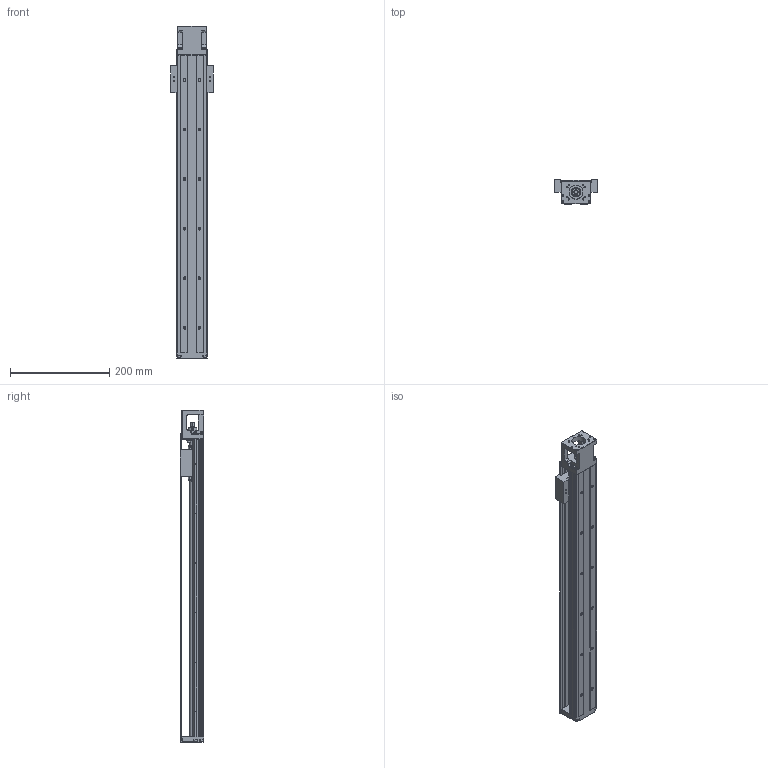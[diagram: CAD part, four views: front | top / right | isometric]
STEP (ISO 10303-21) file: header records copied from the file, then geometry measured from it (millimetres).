
FILE_DESCRIPTION (( 'STEP AP214' ), '1' );
FILE_NAME ('7.0114 KT6005C-600A1-F0C.STEP', '2026-03-17T11:00:37', ( '' ), ( '' ), 'SwSTEP 2.0', 'SolidWorks 2025', '' );
FILE_SCHEMA (( 'AUTOMOTIVE_DESIGN' ));
Length unit declared in the file: millimetre
Products named in the file (4): KT60C-K0_600; 7.0114 KT6005C-600A1-F0C; KT-60-CU_600; KT60C-A1-C
Assembly tree (3 placements, depth 2):
  7.0114 KT6005C-600A1-F0C
    KT60C-K0_600
    KT60C-A1-C
    KT-60-CU_600
Bounding box: 86 x 48 x 670 mm (x, y, z)
Volume: 753207.4 mm3; surface area: 301858.4 mm2
Topology: 26 solids, 26 shells, 1622 faces, 4281 edges, 2708 vertices
Faces by surface type: plane 751, cylinder 633, cone 160, torus 69, sphere 9
Entity records: 65687 total; most frequent: CARTESIAN_POINT 10689, DIRECTION 8651, ORIENTED_EDGE 8384, EDGE_CURVE 4192, AXIS2_PLACEMENT_3D 3081, VERTEX_POINT 2707, LINE 2489, VECTOR 2489
